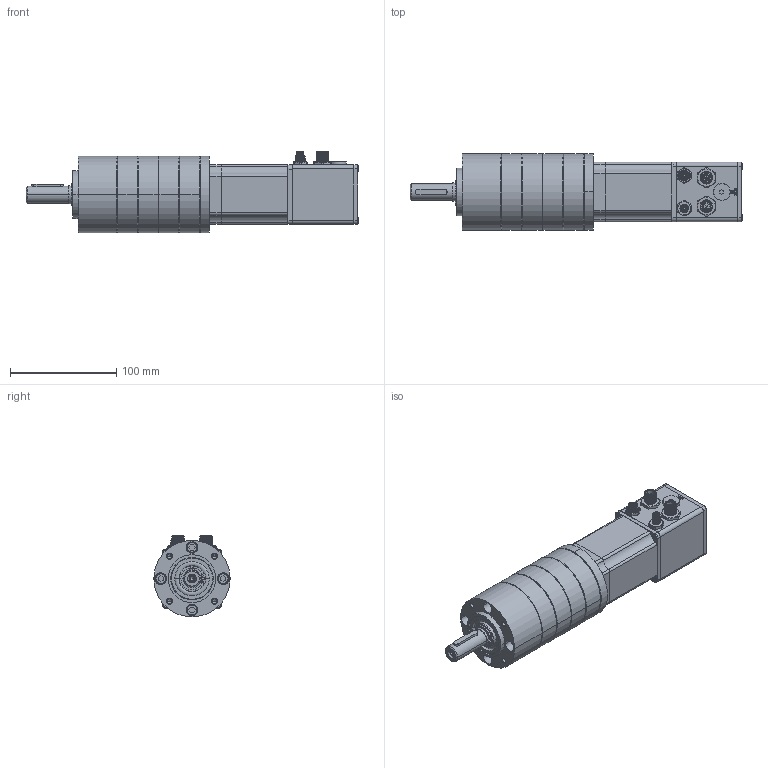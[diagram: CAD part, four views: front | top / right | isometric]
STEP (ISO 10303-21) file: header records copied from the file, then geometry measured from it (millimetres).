
FILE_DESCRIPTION (( 'STEP AP214' ), '1' );
FILE_NAME ('IDX56M_PM72-4stages.STEP', '2020-04-16T14:40:05', ( '' ), ( '' ), 'SwSTEP 2.0', 'SolidWorks 2018', '' );
FILE_SCHEMA (( 'AUTOMOTIVE_DESIGN' ));
Length unit declared in the file: millimetre
Products named in the file (4): B7B8186B6F20; PM72-4etages; 6576738_01_Adapt IDX56_PM72; IDX56M_PM72-4stages
Assembly tree (3 placements, depth 2):
  IDX56M_PM72-4stages
    6576738_01_Adapt IDX56_PM72
    PM72-4etages
    B7B8186B6F20
Bounding box: 312.95 x 72 x 77 mm (x, y, z)
Volume: 462747.3 mm3; surface area: 233760.4 mm2
Topology: 51 solids, 90 shells, 3192 faces, 7979 edges, 5046 vertices
Faces by surface type: cylinder 1182, plane 1032, cone 800, bspline 110, torus 68
Entity records: 134814 total; most frequent: CARTESIAN_POINT 20621, DIRECTION 17603, ORIENTED_EDGE 15882, EDGE_CURVE 7959, AXIS2_PLACEMENT_3D 6699, VERTEX_POINT 5046, VECTOR 4205, LINE 4205
